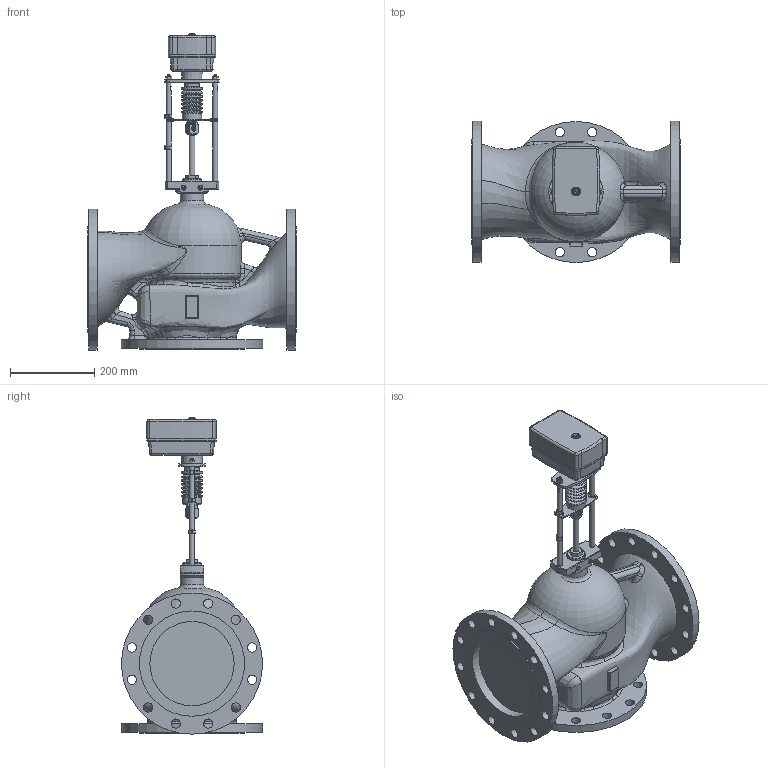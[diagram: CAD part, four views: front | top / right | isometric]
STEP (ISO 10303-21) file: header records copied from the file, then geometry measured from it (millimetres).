
FILE_DESCRIPTION(/* description */ ('Unknown'),/* implementation_level */ '2;1');
FILE_NAME(/* name */ 'TRV-3K-200-630-130',/* time_stamp */ '2023-01-16T11:35:36+03:00',/* author */ ('Unknown'),/* organization */ ('Unknown'),/* preprocessor_version */ 'ST-DEVELOPER v16.7',/* originating_system */ 'DEX',/* authorisation */ $);
FILE_SCHEMA (('AUTOMOTIVE_DESIGN {1 0 10303 214 3 1 1}'));
Products named in the file (3): Êëàïàí DN200-3õ; Äó200-3õ; Ñáîðêà ¹16 6000
Assembly tree (2 placements, depth 2):
  Êëàïàí DN200-3õ
    Äó200-3õ
    Ñáîðêà ¹16 6000
Bounding box: 495 x 335 x 750.9 mm (x, y, z)
Volume: 23150291.2 mm3; surface area: 1211076.3 mm2
Topology: 3 solids, 7 shells, 792 faces, 2010 edges, 1257 vertices
Faces by surface type: plane 319, cylinder 192, bspline 146, cone 74, torus 53, sphere 8
Full cylindrical faces by diameter (mm): 4.134 x2, 6.647 x2, 8 x6, 10 x2, 10.5 x1, 12.002 x4, 13.8 x1, 14 x2, 15 x1, 20 x2, 22 x36, 35.301 x2, 35.4 x1, 44 x2, 44.5 x1, 45.4 x1, 49.272 x1, 55 x1, 200 x3, 250 x3, 335 x3
Entity records: 56499 total; most frequent: CARTESIAN_POINT 35778, ORIENTED_EDGE 3556, DIRECTION 3335, EDGE_CURVE 1778, AXIS2_PLACEMENT_3D 1355, VERTEX_POINT 1176, FACE_BOUND 1066, EDGE_LOOP 1064
